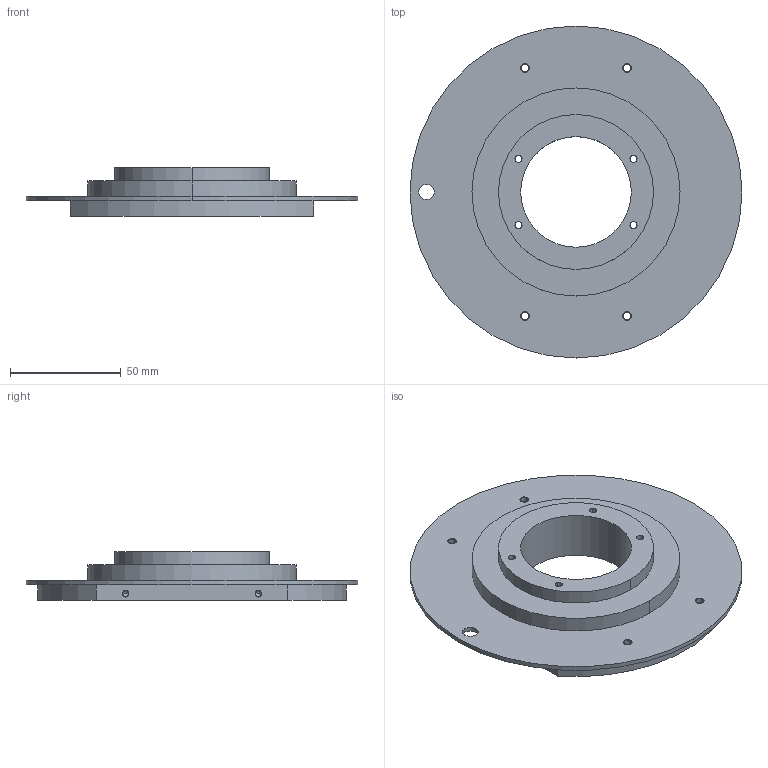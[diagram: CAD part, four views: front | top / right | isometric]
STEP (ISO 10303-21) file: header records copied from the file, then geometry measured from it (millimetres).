
FILE_DESCRIPTION((''),'2;1');
FILE_NAME('ART1TOP_V2','2022-08-24T09:19:38',('domen.bizjak'),('Audax d.o.o.'),'CREO PARAMETRIC BY PTC INC, 2021184','CREO PARAMETRIC BY PTC INC, 2021184','');
FILE_SCHEMA(('AP242_MANAGED_MODEL_BASED_3D_ENGINEERING_MIM_LF { 1 0 10303 442 1 1 4 }'));
Length unit declared in the file: millimetre
Products named in the file (1): ART1TOP_V2
Bounding box: 150 x 150 x 22 mm (x, y, z)
Volume: 157632.7 mm3; surface area: 44459 mm2
Topology: 1 solids, 9 shells, 83 faces, 226 edges, 168 vertices
Faces by surface type: cylinder 60, plane 15, cone 8
Entity records: 4773 total; most frequent: DIRECTION 586, CARTESIAN_POINT 480, ORIENTED_EDGE 372, COLOUR_RGB 319, AXIS2_PLACEMENT_3D 248, PRESENTATION_STYLE_ASSIGNMENT 233, STYLED_ITEM 233, CURVE_STYLE 219
